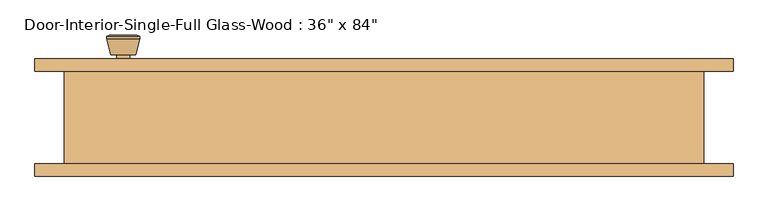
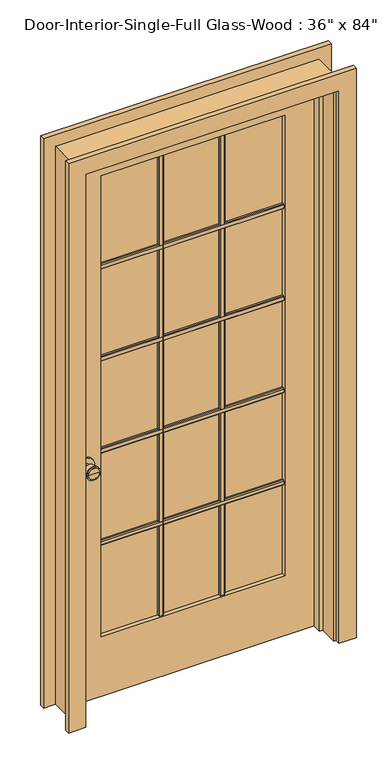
"""IFC4 building model written with IfcOpenShell, lengths in millimetres: door geometry."""

from ifc_helpers import new_model, si_unit, point, frame, frame_2d, origin, place, context, project, spatial, polyline, circle_curve, trimmed, segment, composite_curve, outline, extrude, faceted_brep, source, transform, mapped, element, save
from ifc_brep_helpers import plane_surface, cylinder_surface, revolved_surface, advanced_brep


def door_918c180d(model_context):
    return source(origin(), model_context, "Body", "SolidModel", [
        extrude(outline(polyline([(52.705, 1667.51), (59.055, 1667.51), (62.23, 1664.335), (62.23, 1651.635), (59.055, 1648.46), (52.705, 1648.46), (52.705, 1667.51)])), frame((-336.55, 0.0, 0.0), z_axis=(1.0, 0.0, 0.0), x_axis=(0.0, 1.0, 0.0)), (0.0, 0.0, 1.0), 673.1),
        extrude(outline(polyline([(52.705, 1310.9575), (59.055, 1310.9575), (62.23, 1307.7825), (62.23, 1295.0825), (59.055, 1291.9075), (52.705, 1291.9075), (52.705, 1310.9575)])), frame((-336.55, 0.0, 0.0), z_axis=(1.0, 0.0, 0.0), x_axis=(0.0, 1.0, 0.0)), (0.0, 0.0, 1.0), 673.1),
        extrude(outline(polyline([(52.705, 954.405), (59.055, 954.405), (62.23, 951.23), (62.23, 938.53), (59.055, 935.355), (52.705, 935.355), (52.705, 954.405)])), frame((-336.55, 0.0, 0.0), z_axis=(1.0, 0.0, 0.0), x_axis=(0.0, 1.0, 0.0)), (0.0, 0.0, 1.0), 673.1),
        extrude(outline(polyline([(52.705, 597.8525), (59.055, 597.8525), (62.23, 594.6775), (62.23, 581.9775), (59.055, 578.8025), (52.705, 578.8025), (52.705, 597.8525)])), frame((-336.55, 0.0, 0.0), z_axis=(1.0, 0.0, 0.0), x_axis=(0.0, 1.0, 0.0)), (0.0, 0.0, 1.0), 673.1),
        extrude(outline(polyline([(102.6583333, 52.705), (102.6583333, 59.055), (105.8333333, 62.23), (118.5333333, 62.23), (121.7083333, 59.055), (121.7083333, 52.705), (102.6583333, 52.705)])), frame((0.0, 0.0, 231.775), z_axis=(0.0, 0.0, 1.0), x_axis=(1.0, 0.0, 0.0)), (0.0, 0.0, 1.0), 1782.7625),
        extrude(outline(polyline([(-121.7083333, 52.705), (-121.7083333, 59.055), (-118.5333333, 62.23), (-105.8333333, 62.23), (-102.6583333, 59.055), (-102.6583333, 52.705), (-121.7083333, 52.705)])), frame((0.0, 0.0, 231.775), z_axis=(0.0, 0.0, 1.0), x_axis=(1.0, 0.0, 0.0)), (0.0, 0.0, 1.0), 1782.7625),
        extrude(outline(polyline([(45.72, 1667.51), (45.72, 1648.46), (39.37, 1648.46), (36.195, 1651.635), (36.195, 1664.335), (39.37, 1667.51), (45.72, 1667.51)])), frame((-336.55, 0.0, 0.0), z_axis=(1.0, 0.0, 0.0), x_axis=(0.0, 1.0, 0.0)), (0.0, 0.0, 1.0), 673.1),
        extrude(outline(polyline([(45.72, 1310.9575), (45.72, 1291.9075), (39.37, 1291.9075), (36.195, 1295.0825), (36.195, 1307.7825), (39.37, 1310.9575), (45.72, 1310.9575)])), frame((-336.55, 0.0, 0.0), z_axis=(1.0, 0.0, 0.0), x_axis=(0.0, 1.0, 0.0)), (0.0, 0.0, 1.0), 673.1),
        extrude(outline(polyline([(45.72, 954.405), (45.72, 935.355), (39.37, 935.355), (36.195, 938.53), (36.195, 951.23), (39.37, 954.405), (45.72, 954.405)])), frame((-336.55, 0.0, 0.0), z_axis=(1.0, 0.0, 0.0), x_axis=(0.0, 1.0, 0.0)), (0.0, 0.0, 1.0), 673.1),
        extrude(outline(polyline([(45.72, 597.8525), (45.72, 578.8025), (39.37, 578.8025), (36.195, 581.9775), (36.195, 594.6775), (39.37, 597.8525), (45.72, 597.8525)])), frame((-336.55, 0.0, 0.0), z_axis=(1.0, 0.0, 0.0), x_axis=(0.0, 1.0, 0.0)), (0.0, 0.0, 1.0), 673.1),
        extrude(outline(polyline([(102.6583333, 45.72), (121.7083333, 45.72), (121.7083333, 39.37), (118.5333333, 36.195), (105.8333333, 36.195), (102.6583333, 39.37), (102.6583333, 45.72)])), frame((0.0, 0.0, 231.775), z_axis=(0.0, 0.0, 1.0), x_axis=(1.0, 0.0, 0.0)), (0.0, 0.0, 1.0), 1782.7625),
        extrude(outline(polyline([(-121.7083333, 45.72), (-102.6583333, 45.72), (-102.6583333, 39.37), (-105.8333333, 36.195), (-118.5333333, 36.195), (-121.7083333, 39.37), (-121.7083333, 45.72)])), frame((0.0, 0.0, 231.775), z_axis=(0.0, 0.0, 1.0), x_axis=(1.0, 0.0, 0.0)), (0.0, 0.0, 1.0), 1782.7625),
        advanced_brep(
        [(-393.7, 25.75, 914.4), (-383.7, 25.75, 914.4), (-403.7, 25.75, 914.4), (-373.2241324, -23.25, 914.4), (-393.7, -23.25, 914.4), (-414.1758676, -23.25, 914.4), (-368.7, -21.4221319, 914.4), (-418.7, -21.4221319, 914.4), (-368.7, -17.9584537, 914.4), (-418.7, -17.9584537, 914.4), (-375.063764, 6.75, 914.4), (-412.336236, 6.75, 914.4), (-383.7, 6.75, 914.4), (-403.7, 6.75, 914.4)],
        [
            (0, 1),
            (1, 2, circle_curve(frame((-393.7, 25.75, 914.4), z_axis=(0.0, 1.0, 0.0), x_axis=(-1.0, 0.0, 0.0)), 10.0)),
            (2, 0),
            (2, 1, circle_curve(frame((-393.7, 25.75, 914.4), z_axis=(0.0, 1.0, 0.0), x_axis=(-1.0, 0.0, 0.0)), 10.0)),
            (3, 4),
            (4, 5),
            (5, 3, circle_curve(frame((-393.7, -23.25, 914.4), z_axis=(0.0, -1.0, 0.0), x_axis=(-1.0, 0.0, 0.0)), 20.4758676)),
            (3, 5, circle_curve(frame((-393.7, -23.25, 914.4), z_axis=(0.0, -1.0, 0.0), x_axis=(-1.0, 0.0, 0.0)), 20.4758676)),
            (6, 3),
            (5, 7),
            (7, 6, circle_curve(frame((-393.7, -21.4221319, 914.4), z_axis=(0.0, -1.0, 0.0), x_axis=(-1.0, 0.0, 0.0)), 25.0)),
            (6, 7, circle_curve(frame((-393.7, -21.4221319, 914.4), z_axis=(0.0, -1.0, 0.0), x_axis=(-1.0, 0.0, 0.0)), 25.0)),
            (8, 6),
            (7, 9),
            (9, 8, circle_curve(frame((-393.7, -17.9584537, 914.4), z_axis=(0.0, -1.0, 0.0), x_axis=(-1.0, 0.0, 0.0)), 25.0)),
            (8, 9, circle_curve(frame((-393.7, -17.9584537, 914.4), z_axis=(0.0, -1.0, 0.0), x_axis=(-1.0, 0.0, 0.0)), 25.0)),
            (10, 8),
            (9, 11),
            (11, 10, circle_curve(frame((-393.7, 6.75, 914.4), z_axis=(0.0, -1.0, 0.0), x_axis=(-1.0, 0.0, 0.0)), 18.636236)),
            (10, 11, circle_curve(frame((-393.7, 6.75, 914.4), z_axis=(0.0, -1.0, 0.0), x_axis=(-1.0, 0.0, 0.0)), 18.636236)),
            (12, 10),
            (11, 13),
            (13, 12, circle_curve(frame((-393.7, 6.75, 914.4), z_axis=(0.0, -1.0, 0.0), x_axis=(-1.0, 0.0, 0.0)), 10.0)),
            (12, 13, circle_curve(frame((-393.7, 6.75, 914.4), z_axis=(0.0, -1.0, 0.0), x_axis=(-1.0, 0.0, 0.0)), 10.0)),
            (1, 12),
            (13, 2),
        ],
        [
            plane_surface(frame((-393.7, 25.75, 914.4), z_axis=(0.0, 1.0, 0.0), x_axis=(-1.0, 0.0, 0.0))),
            plane_surface(frame((-393.7, -23.25, 914.4), z_axis=(0.0, -1.0, 0.0), x_axis=(-1.0, 0.0, 0.0))),
            revolved_surface(polyline([(-414.1758676, -23.25, 914.4), (-418.7, -21.4221319, 914.4)]), (-393.7, 25.75, 914.4), (0.0, 1.0, 0.0)),
            cylinder_surface(frame((-393.7, 25.75, 914.4), z_axis=(0.0, 1.0, 0.0), x_axis=(-1.0, 0.0, 0.0)), 25.0),
            revolved_surface(polyline([(-418.7, -17.9584537, 914.4), (-412.336236, 6.75, 914.4)]), (-393.7, 25.75, 914.4), (0.0, 1.0, 0.0)),
            plane_surface(frame((-393.7, 6.75, 914.4), z_axis=(0.0, 1.0, 0.0), x_axis=(-1.0, 0.0, 0.0))),
            cylinder_surface(frame((-393.7, 25.75, 914.4), z_axis=(0.0, 1.0, 0.0), x_axis=(-1.0, 0.0, 0.0)), 10.0),
        ],
        [
            (0, [[1, 2, 3]]),
            (0, [[-3, 4, -1]]),
            (1, [[5, 6, 7]]),
            (1, [[-6, -5, 8]]),
            (2, [[9, -7, 10, 11]]),
            (2, [[-10, -8, -9, 12]]),
            (3, [[13, -11, 14, 15]]),
            (3, [[-14, -12, -13, 16]]),
            (4, [[17, -15, 18, 19]]),
            (4, [[-18, -16, -17, 20]]),
            (5, [[21, -19, 22, 23]]),
            (5, [[-22, -20, -21, 24]]),
            (6, [[25, -23, 26, -2]]),
            (6, [[-26, -24, -25, -4]]),
        ],
    ),
        extrude(outline(composite_curve([segment(trimmed(circle_curve(frame_2d((914.4, -393.7)), 30.0), [point((914.4, -423.7))], [point((914.4, -363.7))], False, "CARTESIAN"), True, "CONTINUOUS"), segment(trimmed(circle_curve(frame_2d((914.4, -393.7)), 30.0), [point((914.4, -363.7))], [point((914.4, -423.7))], False, "CARTESIAN"), True, "CONTINUOUS")], self_intersect=False)), frame((0.0, 25.75, 0.0), z_axis=(0.0, 1.0, 0.0), x_axis=(0.0, 0.0, 1.0)), (0.0, 0.0, 1.0), 6.0),
        advanced_brep(
        [(-393.7, 72.675, 914.4), (-403.7, 72.675, 914.4), (-383.7, 72.675, 914.4), (-373.2241324, 121.675, 914.4), (-414.1758676, 121.675, 914.4), (-393.7, 121.675, 914.4), (-368.7, 119.8471319, 914.4), (-418.7, 119.8471319, 914.4), (-368.7, 116.3834537, 914.4), (-418.7, 116.3834537, 914.4), (-375.063764, 91.675, 914.4), (-412.336236, 91.675, 914.4), (-383.7, 91.675, 914.4), (-403.7, 91.675, 914.4)],
        [
            (0, 1),
            (1, 2, circle_curve(frame((-393.7, 72.675, 914.4), z_axis=(0.0, -1.0, 0.0), x_axis=(-1.0, 0.0, 0.0)), 10.0)),
            (2, 0),
            (2, 1, circle_curve(frame((-393.7, 72.675, 914.4), z_axis=(0.0, -1.0, 0.0), x_axis=(-1.0, 0.0, 0.0)), 10.0)),
            (3, 4, circle_curve(frame((-393.7, 121.675, 914.4), z_axis=(0.0, 1.0, 0.0), x_axis=(-1.0, 0.0, 0.0)), 20.4758676)),
            (4, 5),
            (5, 3),
            (4, 3, circle_curve(frame((-393.7, 121.675, 914.4), z_axis=(0.0, 1.0, 0.0), x_axis=(-1.0, 0.0, 0.0)), 20.4758676)),
            (6, 7, circle_curve(frame((-393.7, 119.8471319, 914.4), z_axis=(0.0, 1.0, 0.0), x_axis=(-1.0, 0.0, 0.0)), 25.0)),
            (7, 4),
            (3, 6),
            (7, 6, circle_curve(frame((-393.7, 119.8471319, 914.4), z_axis=(0.0, 1.0, 0.0), x_axis=(-1.0, 0.0, 0.0)), 25.0)),
            (8, 9, circle_curve(frame((-393.7, 116.3834537, 914.4), z_axis=(0.0, 1.0, 0.0), x_axis=(-1.0, 0.0, 0.0)), 25.0)),
            (9, 7),
            (6, 8),
            (9, 8, circle_curve(frame((-393.7, 116.3834537, 914.4), z_axis=(0.0, 1.0, 0.0), x_axis=(-1.0, 0.0, 0.0)), 25.0)),
            (10, 11, circle_curve(frame((-393.7, 91.675, 914.4), z_axis=(0.0, 1.0, 0.0), x_axis=(-1.0, 0.0, 0.0)), 18.636236)),
            (11, 9),
            (8, 10),
            (11, 10, circle_curve(frame((-393.7, 91.675, 914.4), z_axis=(0.0, 1.0, 0.0), x_axis=(-1.0, 0.0, 0.0)), 18.636236)),
            (12, 13, circle_curve(frame((-393.7, 91.675, 914.4), z_axis=(0.0, 1.0, 0.0), x_axis=(-1.0, 0.0, 0.0)), 10.0)),
            (13, 11),
            (10, 12),
            (13, 12, circle_curve(frame((-393.7, 91.675, 914.4), z_axis=(0.0, 1.0, 0.0), x_axis=(-1.0, 0.0, 0.0)), 10.0)),
            (1, 13),
            (12, 2),
        ],
        [
            plane_surface(frame((-393.7, 72.675, 914.4), z_axis=(0.0, -1.0, 0.0), x_axis=(-1.0, 0.0, 0.0))),
            plane_surface(frame((-393.7, 121.675, 914.4), z_axis=(0.0, 1.0, 0.0), x_axis=(-1.0, 0.0, 0.0))),
            revolved_surface(polyline([(-414.1758676, 121.675, 914.4), (-418.7, 119.8471319, 914.4)]), (-393.7, 72.675, 914.4), (0.0, -1.0, 0.0)),
            cylinder_surface(frame((-393.7, 72.675, 914.4), z_axis=(0.0, -1.0, 0.0), x_axis=(-1.0, 0.0, 0.0)), 25.0),
            revolved_surface(polyline([(-418.7, 116.3834537, 914.4), (-412.336236, 91.675, 914.4)]), (-393.7, 72.675, 914.4), (0.0, -1.0, 0.0)),
            plane_surface(frame((-393.7, 91.675, 914.4), z_axis=(0.0, -1.0, 0.0), x_axis=(-1.0, 0.0, 0.0))),
            cylinder_surface(frame((-393.7, 72.675, 914.4), z_axis=(0.0, -1.0, 0.0), x_axis=(-1.0, 0.0, 0.0)), 10.0),
        ],
        [
            (0, [[1, 2, 3]]),
            (0, [[-3, 4, -1]]),
            (1, [[5, 6, 7]]),
            (1, [[8, -7, -6]]),
            (2, [[9, 10, -5, 11]]),
            (2, [[12, -11, -8, -10]]),
            (3, [[13, 14, -9, 15]]),
            (3, [[16, -15, -12, -14]]),
            (4, [[17, 18, -13, 19]]),
            (4, [[20, -19, -16, -18]]),
            (5, [[21, 22, -17, 23]]),
            (5, [[24, -23, -20, -22]]),
            (6, [[-2, 25, -21, 26]]),
            (6, [[-4, -26, -24, -25]]),
        ],
    ),
        extrude(outline(composite_curve([segment(trimmed(circle_curve(frame_2d((914.4, -393.7)), 30.0), [point((914.4, -423.7))], [point((914.4, -363.7))], False, "CARTESIAN"), True, "CONTINUOUS"), segment(trimmed(circle_curve(frame_2d((914.4, -393.7)), 30.0), [point((914.4, -363.7))], [point((914.4, -423.7))], False, "CARTESIAN"), True, "CONTINUOUS")], self_intersect=False)), frame((0.0, 66.675, 0.0), z_axis=(0.0, 1.0, 0.0), x_axis=(0.0, 0.0, 1.0)), (0.0, 0.0, 1.0), 6.0),
        extrude(outline(polyline([(2133.6, -457.2), (0.0, -457.2), (0.0, 457.2), (2133.6, 457.2), (2133.6, -457.2)]), holes=[polyline([(2014.5375, -336.55), (2014.5375, 336.55), (231.775, 336.55), (231.775, -336.55), (2014.5375, -336.55)])]), frame((0.0, 31.75, 0.0), z_axis=(0.0, 1.0, 0.0), x_axis=(0.0, 0.0, 1.0)), (0.0, 0.0, 1.0), 34.925),
        faceted_brep([(482.6, 66.675, 0.0), (482.6, -73.025, 0.0), (457.2, -73.025, 0.0), (457.2, -3.175, 0.0), (444.5, -3.175, 0.0), (444.5, 31.75, 0.0), (457.2, 31.75, 0.0), (457.2, 66.675, 0.0), (482.6, 66.675, 2159.0), (482.6, -73.025, 2159.0), (-482.6, -73.025, 2159.0), (-482.6, -73.025, 0.0), (-457.2, -73.025, 0.0), (-457.2, -73.025, 2133.6), (457.2, -73.025, 2133.6), (457.2, -3.175, 2133.6), (-457.2, -3.175, 2133.6), (-457.2, -3.175, 0.0), (-444.5, -3.175, 0.0), (-444.5, -3.175, 2120.9), (444.5, -3.175, 2120.9), (444.5, 31.75, 2120.9), (-444.5, 31.75, 2120.9), (-444.5, 31.75, 0.0), (-457.2, 31.75, 0.0), (-457.2, 31.75, 2133.6), (457.2, 31.75, 2133.6), (457.2, 66.675, 2133.6), (-457.2, 66.675, 2133.6), (-457.2, 66.675, 0.0), (-482.6, 66.675, 0.0), (-482.6, 66.675, 2159.0)], [[[0, 1, 2, 3, 4, 5, 6, 7]], [[1, 0, 8, 9]], [[2, 1, 9, 10, 11, 12, 13, 14]], [[3, 2, 14, 15]], [[4, 3, 15, 16, 17, 18, 19, 20]], [[5, 4, 20, 21]], [[6, 5, 21, 22, 23, 24, 25, 26]], [[7, 6, 26, 27]], [[0, 7, 27, 28, 29, 30, 31, 8]], [[9, 8, 31, 10]], [[15, 14, 13, 16]], [[21, 20, 19, 22]], [[27, 26, 25, 28]], [[30, 29, 24, 23, 18, 17, 12, 11]], [[10, 31, 30, 11]], [[16, 13, 12, 17]], [[22, 19, 18, 23]], [[28, 25, 24, 29]]]),
        extrude(outline(polyline([(336.55, 45.72), (-336.55, 45.72), (-336.55, 52.705), (336.55, 52.705), (336.55, 45.72)])), frame((0.0, 0.0, 231.775), z_axis=(0.0, 0.0, 1.0), x_axis=(1.0, 0.0, 0.0)), (0.0, 0.0, 1.0), 1782.7625),
        extrude(outline(polyline([(0.0, 463.55), (0.0, 527.05), (2203.45, 527.05), (2203.45, -527.05), (0.0, -527.05), (0.0, -463.55), (2139.95, -463.55), (2139.95, 463.55), (0.0, 463.55)])), frame((0.0, -92.075, 0.0), z_axis=(0.0, 1.0, 0.0), x_axis=(0.0, 0.0, 1.0)), (0.0, 0.0, 1.0), 19.05),
        extrude(outline(polyline([(0.0, 463.55), (0.0, 527.05), (2203.45, 527.05), (2203.45, -527.05), (0.0, -527.05), (0.0, -463.55), (2139.95, -463.55), (2139.95, 463.55), (0.0, 463.55)])), frame((0.0, 66.675, 0.0), z_axis=(0.0, 1.0, 0.0), x_axis=(0.0, 0.0, 1.0)), (0.0, 0.0, 1.0), 19.05),
    ])


if __name__ == "__main__":
    model = new_model("IFC4")
    model_context = context("Model", 3, world=origin())
    ifc_project = project(units=[si_unit("LENGTHUNIT", "METRE", prefix="MILLI")], contexts=[model_context])
    site = spatial("IfcSite", under=ifc_project)
    building = spatial("IfcBuilding", under=site)
    placement = place(None, origin())
    door_shape = door_918c180d(model_context)
    element("IfcDoor", 1, ObjectType="Door-Interior-Single-Full Glass-Wood : 36\" x 84\"", at=placement, inside=building, context=model_context, shape_type="MappedRepresentation", body=[
        mapped(door_shape, transform((0.0, 0.0, 0.0), x_axis=(1.0, 0.0, 0.0), y_axis=(0.0, 1.0, 0.0), z_axis=(0.0, 0.0, 1.0))),
    ])
    save(model, "model.ifc")
